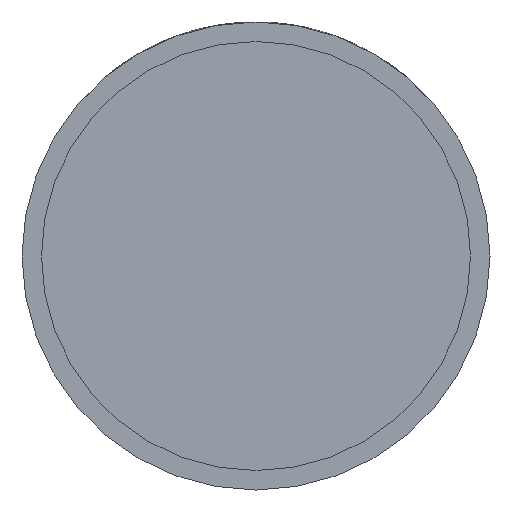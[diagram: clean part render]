
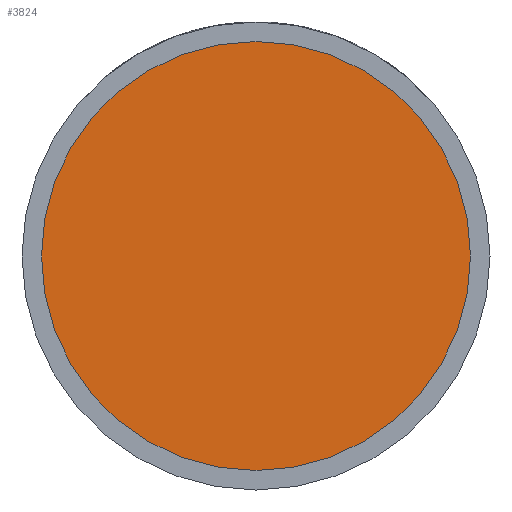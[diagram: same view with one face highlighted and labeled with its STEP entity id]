
A CAD part, front view. The second image highlights one B-rep face of the part: STEP entity #3824.
In plain terms, the highlighted planar face has unit normal (0, -1, 0).
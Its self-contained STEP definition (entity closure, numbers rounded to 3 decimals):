
#35 = CIRCLE ( 'NONE', #1403, 22. ) ;
#104 = FACE_OUTER_BOUND ( 'NONE', #3921, .T. ) ;
#155 = DIRECTION ( 'NONE',  ( 1., 0., 0. ) ) ;
#475 = EDGE_CURVE ( 'NONE', #1523, #2697, #1808, .T. ) ;
#495 = EDGE_CURVE ( 'NONE', #2697, #1523, #35, .T. ) ;
#630 = DIRECTION ( 'NONE',  ( 1., 0., 0. ) ) ;
#650 = DIRECTION ( 'NONE',  ( 1., 0., 0. ) ) ;
#1075 = CARTESIAN_POINT ( 'NONE',  ( 22., -17.5, 0. ) ) ;
#1224 = AXIS2_PLACEMENT_3D ( 'NONE', #3463, #2128, #155 ) ;
#1403 = AXIS2_PLACEMENT_3D ( 'NONE', #3572, #1919, #630 ) ;
#1523 = VERTEX_POINT ( 'NONE', #3535 ) ;
#1808 = CIRCLE ( 'NONE', #2773, 22. ) ;
#1919 = DIRECTION ( 'NONE',  ( 0., -1., 0. ) ) ;
#1967 = ORIENTED_EDGE ( 'NONE', *, *, #495, .T. ) ;
#2128 = DIRECTION ( 'NONE',  ( 0., -1., 0. ) ) ;
#2450 = PLANE ( 'NONE',  #1224 ) ;
#2654 = DIRECTION ( 'NONE',  ( 0., -1., 0. ) ) ;
#2697 = VERTEX_POINT ( 'NONE', #1075 ) ;
#2773 = AXIS2_PLACEMENT_3D ( 'NONE', #2943, #2654, #650 ) ;
#2943 = CARTESIAN_POINT ( 'NONE',  ( 0., -17.5, 0. ) ) ;
#3463 = CARTESIAN_POINT ( 'NONE',  ( 22., -17.5, 0. ) ) ;
#3535 = CARTESIAN_POINT ( 'NONE',  ( -22., -17.5, 0. ) ) ;
#3572 = CARTESIAN_POINT ( 'NONE',  ( 0., -17.5, 0. ) ) ;
#3824 = ADVANCED_FACE ( 'NONE', ( #104 ), #2450, .T. ) ;
#3897 = ORIENTED_EDGE ( 'NONE', *, *, #475, .T. ) ;
#3921 = EDGE_LOOP ( 'NONE', ( #1967, #3897 ) ) ;
